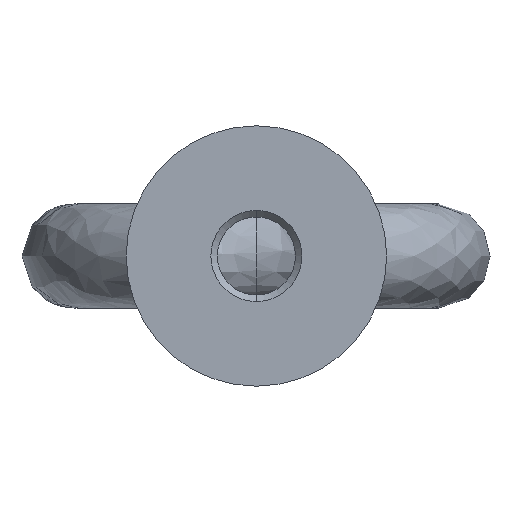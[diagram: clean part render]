
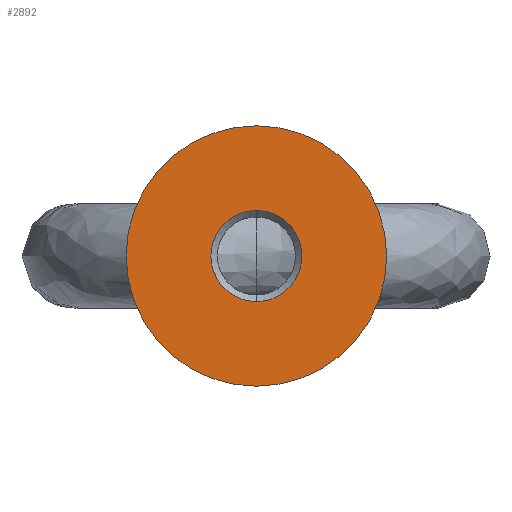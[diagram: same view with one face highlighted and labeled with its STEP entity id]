
A CAD part, front view. The second image highlights one B-rep face of the part: STEP entity #2892.
In plain terms, the highlighted planar face has unit normal (0, -1, 0).
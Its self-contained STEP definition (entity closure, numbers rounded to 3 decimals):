
#29 = AXIS2_PLACEMENT_3D ( 'NONE', #1623, #1848, #2470 ) ;
#218 = VERTEX_POINT ( 'NONE', #1863 ) ;
#219 = DIRECTION ( 'NONE',  ( 0., 0., -1. ) ) ;
#256 = DIRECTION ( 'NONE',  ( 0., 1., 0. ) ) ;
#428 = DIRECTION ( 'NONE',  ( 0., 0., 1. ) ) ;
#493 = CARTESIAN_POINT ( 'NONE',  ( 0., 0., 0. ) ) ;
#500 = CIRCLE ( 'NONE', #1068, 10. ) ;
#519 = CARTESIAN_POINT ( 'NONE',  ( 0., 0., 0. ) ) ;
#676 = FACE_BOUND ( 'NONE', #1720, .T. ) ;
#733 = CIRCLE ( 'NONE', #29, 3.5 ) ;
#744 = ORIENTED_EDGE ( 'NONE', *, *, #2196, .F. ) ;
#894 = PLANE ( 'NONE',  #1398 ) ;
#926 = CARTESIAN_POINT ( 'NONE',  ( 0., 0., 10. ) ) ;
#979 = CIRCLE ( 'NONE', #2597, 10. ) ;
#1068 = AXIS2_PLACEMENT_3D ( 'NONE', #1779, #2684, #428 ) ;
#1109 = EDGE_CURVE ( 'NONE', #1415, #2267, #979, .T. ) ;
#1116 = CARTESIAN_POINT ( 'NONE',  ( 0., 0., -3.5 ) ) ;
#1270 = ORIENTED_EDGE ( 'NONE', *, *, #1300, .T. ) ;
#1300 = EDGE_CURVE ( 'NONE', #218, #2894, #1507, .T. ) ;
#1354 = EDGE_LOOP ( 'NONE', ( #1994, #744 ) ) ;
#1380 = DIRECTION ( 'NONE',  ( 0., 1., 0. ) ) ;
#1398 = AXIS2_PLACEMENT_3D ( 'NONE', #2720, #2251, #219 ) ;
#1415 = VERTEX_POINT ( 'NONE', #1998 ) ;
#1507 = CIRCLE ( 'NONE', #2928, 3.5 ) ;
#1592 = FACE_OUTER_BOUND ( 'NONE', #1354, .T. ) ;
#1623 = CARTESIAN_POINT ( 'NONE',  ( 0., 0., 0. ) ) ;
#1720 = EDGE_LOOP ( 'NONE', ( #2250, #1270 ) ) ;
#1779 = CARTESIAN_POINT ( 'NONE',  ( 0., 0., 0. ) ) ;
#1848 = DIRECTION ( 'NONE',  ( 0., 1., 0. ) ) ;
#1863 = CARTESIAN_POINT ( 'NONE',  ( 0., 0., 3.5 ) ) ;
#1882 = DIRECTION ( 'NONE',  ( 0., 0., 1. ) ) ;
#1994 = ORIENTED_EDGE ( 'NONE', *, *, #1109, .F. ) ;
#1998 = CARTESIAN_POINT ( 'NONE',  ( 0., 0., -10. ) ) ;
#2196 = EDGE_CURVE ( 'NONE', #2267, #1415, #500, .T. ) ;
#2250 = ORIENTED_EDGE ( 'NONE', *, *, #2745, .T. ) ;
#2251 = DIRECTION ( 'NONE',  ( 0., -1., 0. ) ) ;
#2267 = VERTEX_POINT ( 'NONE', #926 ) ;
#2470 = DIRECTION ( 'NONE',  ( 0., 0., -1. ) ) ;
#2551 = DIRECTION ( 'NONE',  ( 0., 0., -1. ) ) ;
#2597 = AXIS2_PLACEMENT_3D ( 'NONE', #519, #256, #1882 ) ;
#2684 = DIRECTION ( 'NONE',  ( 0., 1., 0. ) ) ;
#2720 = CARTESIAN_POINT ( 'NONE',  ( 0., 0., 0. ) ) ;
#2745 = EDGE_CURVE ( 'NONE', #2894, #218, #733, .T. ) ;
#2892 = ADVANCED_FACE ( 'NONE', ( #676, #1592 ), #894, .T. ) ;
#2894 = VERTEX_POINT ( 'NONE', #1116 ) ;
#2928 = AXIS2_PLACEMENT_3D ( 'NONE', #493, #1380, #2551 ) ;
